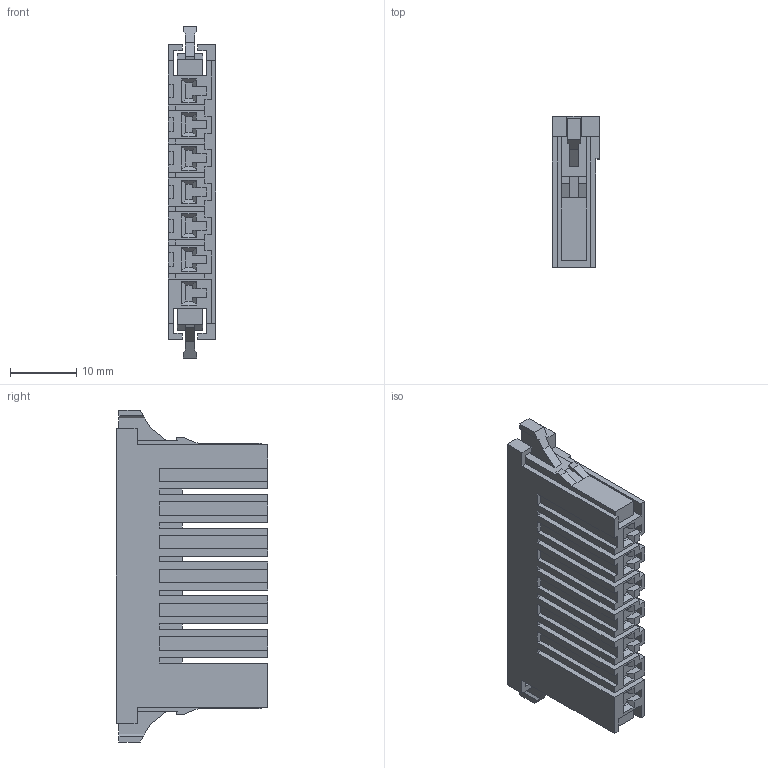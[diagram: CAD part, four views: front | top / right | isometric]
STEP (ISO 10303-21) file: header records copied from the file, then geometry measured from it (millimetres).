
FILE_DESCRIPTION (( 'STEP AP214' ), '1' );
FILE_NAME ('HC-5.08D-7Y-X-05（5.08 单排 孔座-HCTL）.STEP', '2024-09-21T07:41:15', ( '' ), ( '' ), 'SwSTEP 2.0', 'SolidWorks 2022', '' );
FILE_SCHEMA (( 'AUTOMOTIVE_DESIGN' ));
Length unit declared in the file: millimetre
Products named in the file (1): HC-5.08D-7Y-X-05（5.08 单排 孔座-HCTL）
Bounding box: 7.15 x 22.8 x 50.02 mm (x, y, z)
Volume: 5222.8 mm3; surface area: 4669.1 mm2
Topology: 1 solids, 1 shells, 379 faces, 1047 edges, 686 vertices
Faces by surface type: plane 379
Entity records: 11807 total; most frequent: CARTESIAN_POINT 2113, ORIENTED_EDGE 2094, DIRECTION 1807, VECTOR 1047, EDGE_CURVE 1047, LINE 1047, VERTEX_POINT 686, EDGE_LOOP 395
